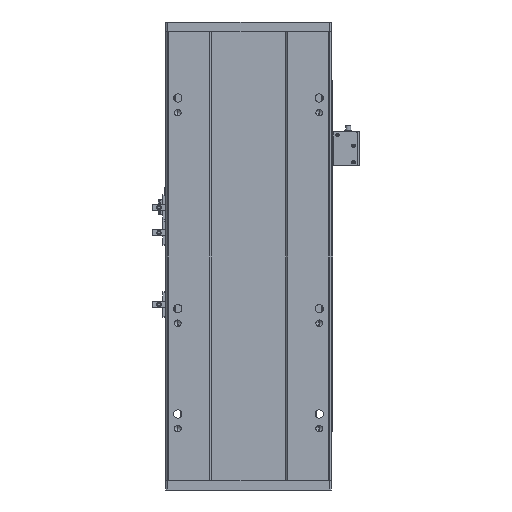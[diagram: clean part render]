
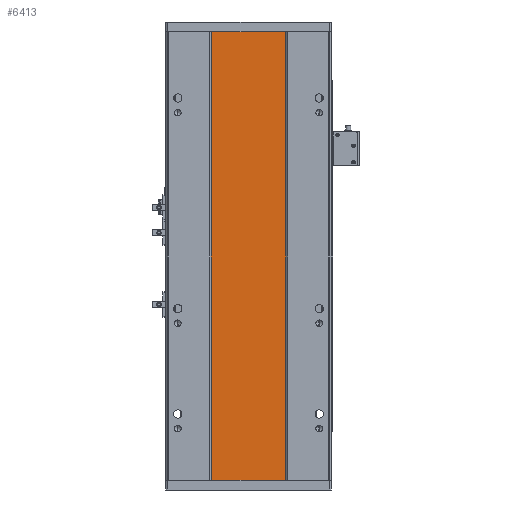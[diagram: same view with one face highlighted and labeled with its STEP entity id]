
A CAD part, front view. The second image highlights one B-rep face of the part: STEP entity #6413.
In plain terms, the highlighted planar face has unit normal (0, -1, 0).
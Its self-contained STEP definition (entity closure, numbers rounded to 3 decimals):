
#1327 = EDGE_CURVE ( 'NONE', #20860, #9888, #7085, .T. ) ;
#2132 = AXIS2_PLACEMENT_3D ( 'NONE', #21563, #19368, #21653 ) ;
#2576 = ORIENTED_EDGE ( 'NONE', *, *, #8285, .T. ) ;
#3991 = CARTESIAN_POINT ( 'NONE',  ( 205.288, 16.9, 0. ) ) ;
#4418 = CARTESIAN_POINT ( 'NONE',  ( 205.288, 16.9, 460. ) ) ;
#4510 = ORIENTED_EDGE ( 'NONE', *, *, #9006, .F. ) ;
#4647 = DIRECTION ( 'NONE',  ( 0., 0., -1. ) ) ;
#4682 = PLANE ( 'NONE',  #2132 ) ;
#5055 = FACE_OUTER_BOUND ( 'NONE', #25825, .T. ) ;
#5920 = DIRECTION ( 'NONE',  ( 1., 0., 0. ) ) ;
#6386 = CARTESIAN_POINT ( 'NONE',  ( 129.288, 16.9, 460. ) ) ;
#6413 = ADVANCED_FACE ( 'NONE', ( #5055 ), #4682, .F. ) ;
#6676 = DIRECTION ( 'NONE',  ( 0., 0., -1. ) ) ;
#7085 = LINE ( 'NONE', #6386, #13322 ) ;
#8112 = CARTESIAN_POINT ( 'NONE',  ( 205.288, 16.9, 460. ) ) ;
#8285 = EDGE_CURVE ( 'NONE', #16990, #26681, #9552, .T. ) ;
#9006 = EDGE_CURVE ( 'NONE', #9888, #26681, #16399, .T. ) ;
#9552 = LINE ( 'NONE', #16466, #21385 ) ;
#9742 = ORIENTED_EDGE ( 'NONE', *, *, #1327, .F. ) ;
#9888 = VERTEX_POINT ( 'NONE', #8112 ) ;
#13322 = VECTOR ( 'NONE', #23202, 1000. ) ;
#14308 = CARTESIAN_POINT ( 'NONE',  ( 129.288, 16.9, 0. ) ) ;
#15298 = ORIENTED_EDGE ( 'NONE', *, *, #17650, .T. ) ;
#16399 = LINE ( 'NONE', #4418, #21336 ) ;
#16466 = CARTESIAN_POINT ( 'NONE',  ( 205.288, 16.9, 0. ) ) ;
#16930 = VECTOR ( 'NONE', #4647, 1000. ) ;
#16990 = VERTEX_POINT ( 'NONE', #14308 ) ;
#17650 = EDGE_CURVE ( 'NONE', #20860, #16990, #19223, .T. ) ;
#19223 = LINE ( 'NONE', #25566, #16930 ) ;
#19368 = DIRECTION ( 'NONE',  ( 0., 1., 0. ) ) ;
#20860 = VERTEX_POINT ( 'NONE', #26320 ) ;
#21336 = VECTOR ( 'NONE', #6676, 1000. ) ;
#21385 = VECTOR ( 'NONE', #5920, 1000. ) ;
#21563 = CARTESIAN_POINT ( 'NONE',  ( 205.288, 16.9, 460. ) ) ;
#21653 = DIRECTION ( 'NONE',  ( -1., 0., 0. ) ) ;
#23202 = DIRECTION ( 'NONE',  ( 1., 0., 0. ) ) ;
#25566 = CARTESIAN_POINT ( 'NONE',  ( 129.288, 16.9, 460. ) ) ;
#25825 = EDGE_LOOP ( 'NONE', ( #2576, #4510, #9742, #15298 ) ) ;
#26320 = CARTESIAN_POINT ( 'NONE',  ( 129.288, 16.9, 460. ) ) ;
#26681 = VERTEX_POINT ( 'NONE', #3991 ) ;
